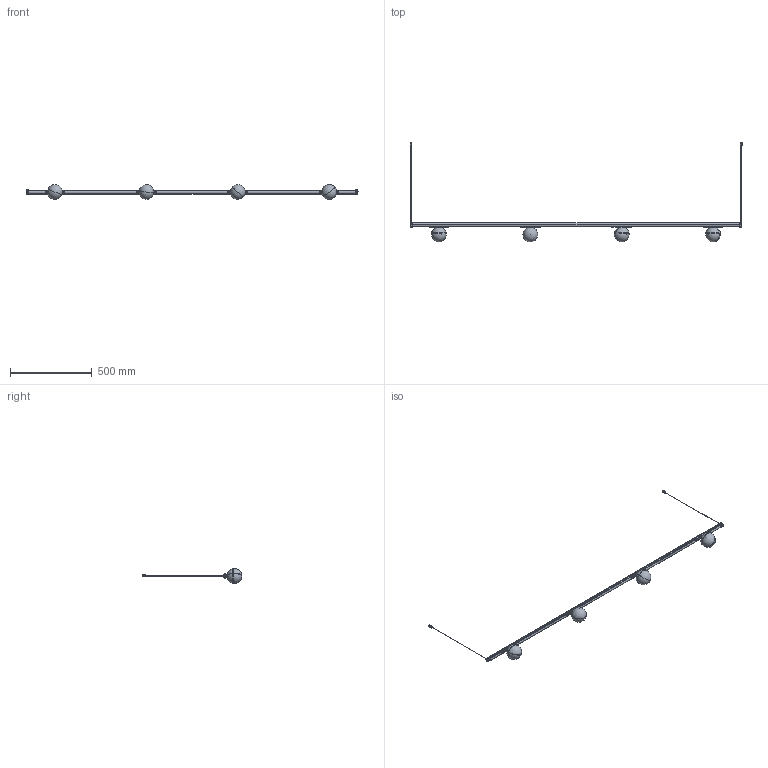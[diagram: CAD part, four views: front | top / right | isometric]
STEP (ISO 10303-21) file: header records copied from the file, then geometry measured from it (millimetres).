
FILE_DESCRIPTION (( 'STEP AP214' ), '1' );
FILE_NAME ('BALO 20.STEP', '2024-05-31T08:59:36', ( '' ), ( '' ), 'SwSTEP 2.0', 'SolidWorks 2024', '' );
FILE_SCHEMA (( 'AUTOMOTIVE_DESIGN' ));
Length unit declared in the file: millimetre
Products named in the file (1): BALO 20
Bounding box: 2033.49 x 610.98 x 89.93 mm (x, y, z)
Volume: 625976.6 mm3; surface area: 683700.8 mm2
Topology: 9 solids, 33 shells, 3808 faces, 10080 edges, 6246 vertices
Faces by surface type: plane 1613, cylinder 1309, bspline 357, torus 288, sphere 142, cone 99
Entity records: 142828 total; most frequent: CARTESIAN_POINT 50803, ORIENTED_EDGE 19876, DIRECTION 18752, EDGE_CURVE 9938, AXIS2_PLACEMENT_3D 6662, VERTEX_POINT 6204, LINE 5428, VECTOR 5428
